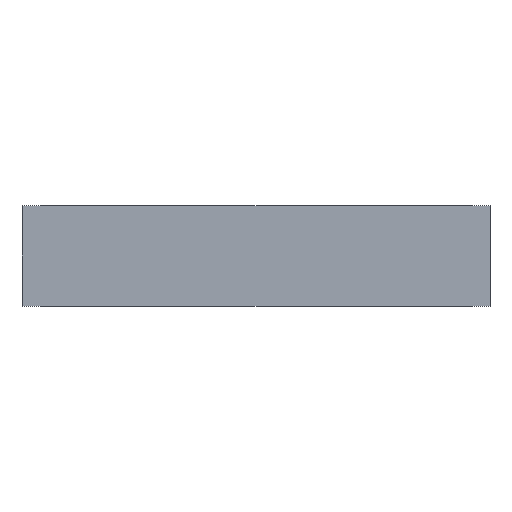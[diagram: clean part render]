
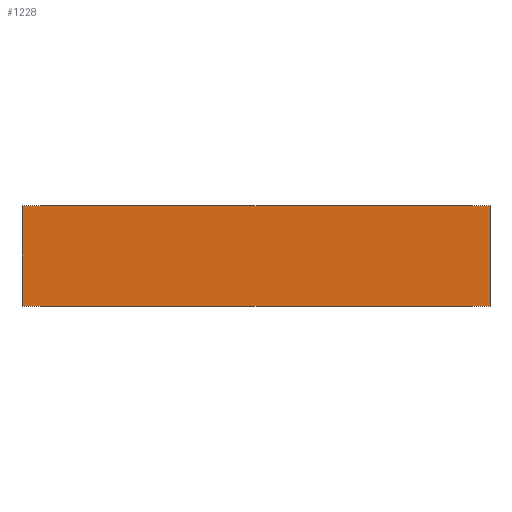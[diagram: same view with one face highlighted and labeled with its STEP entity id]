
A CAD part, front view. The second image highlights one B-rep face of the part: STEP entity #1228.
In plain terms, the highlighted planar face has unit normal (0, -1, 0).
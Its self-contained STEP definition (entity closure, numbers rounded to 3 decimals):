
#12 = EDGE_CURVE ( 'NONE', #679, #682, #377, .T. ) ;
#36 = CARTESIAN_POINT ( 'NONE',  ( 151., 0., 65. ) ) ;
#39 = CARTESIAN_POINT ( 'NONE',  ( -151., 0., 65. ) ) ;
#40 = CARTESIAN_POINT ( 'NONE',  ( 151., 0., 0. ) ) ;
#42 = CARTESIAN_POINT ( 'NONE',  ( -151., 0., 0. ) ) ;
#66 = FACE_OUTER_BOUND ( 'NONE', #319, .T. ) ;
#106 = ORIENTED_EDGE ( 'NONE', *, *, #594, .F. ) ;
#107 = ORIENTED_EDGE ( 'NONE', *, *, #612, .F. ) ;
#111 = ORIENTED_EDGE ( 'NONE', *, *, #613, .T. ) ;
#225 = ORIENTED_EDGE ( 'NONE', *, *, #12, .T. ) ;
#319 = EDGE_LOOP ( 'NONE', ( #111, #107, #106, #225 ) ) ;
#377 = LINE ( 'NONE', #749, #384 ) ;
#384 = VECTOR ( 'NONE', #754, 1000. ) ;
#396 = LINE ( 'NONE', #765, #397 ) ;
#397 = VECTOR ( 'NONE', #766, 1000. ) ;
#405 = LINE ( 'NONE', #781, #432 ) ;
#407 = LINE ( 'NONE', #801, #434 ) ;
#432 = VECTOR ( 'NONE', #802, 1000. ) ;
#434 = VECTOR ( 'NONE', #804, 1000. ) ;
#594 = EDGE_CURVE ( 'NONE', #679, #676, #396, .T. ) ;
#612 = EDGE_CURVE ( 'NONE', #676, #680, #405, .T. ) ;
#613 = EDGE_CURVE ( 'NONE', #682, #680, #407, .T. ) ;
#676 = VERTEX_POINT ( 'NONE', #36 ) ;
#679 = VERTEX_POINT ( 'NONE', #39 ) ;
#680 = VERTEX_POINT ( 'NONE', #40 ) ;
#682 = VERTEX_POINT ( 'NONE', #42 ) ;
#749 = CARTESIAN_POINT ( 'NONE',  ( -151., 0., 65. ) ) ;
#754 = DIRECTION ( 'NONE',  ( 0., 0., -1. ) ) ;
#765 = CARTESIAN_POINT ( 'NONE',  ( -151., 0., 65. ) ) ;
#766 = DIRECTION ( 'NONE',  ( 1., 0., 0. ) ) ;
#781 = CARTESIAN_POINT ( 'NONE',  ( 151., 0., 65. ) ) ;
#801 = CARTESIAN_POINT ( 'NONE',  ( -151., 0., 0. ) ) ;
#802 = DIRECTION ( 'NONE',  ( 0., 0., -1. ) ) ;
#804 = DIRECTION ( 'NONE',  ( 1., 0., 0. ) ) ;
#917 = AXIS2_PLACEMENT_3D ( 'NONE', #1126, #1132, #1133 ) ;
#1123 = PLANE ( 'NONE',  #917 ) ;
#1126 = CARTESIAN_POINT ( 'NONE',  ( -151., 0., 65. ) ) ;
#1132 = DIRECTION ( 'NONE',  ( 0., 1., 0. ) ) ;
#1133 = DIRECTION ( 'NONE',  ( -1., 0., 0. ) ) ;
#1228 = ADVANCED_FACE ( 'NONE', ( #66 ), #1123, .F. ) ;
